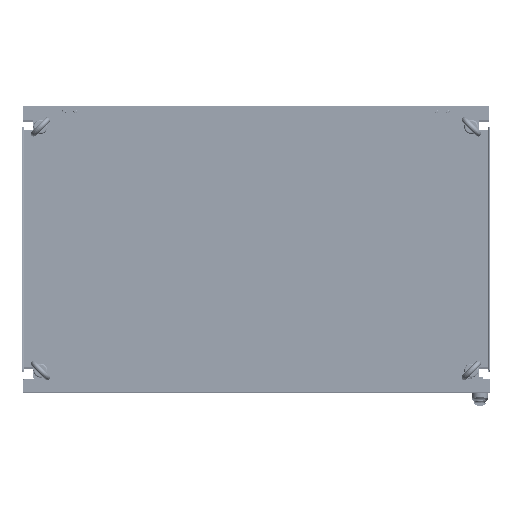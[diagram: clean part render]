
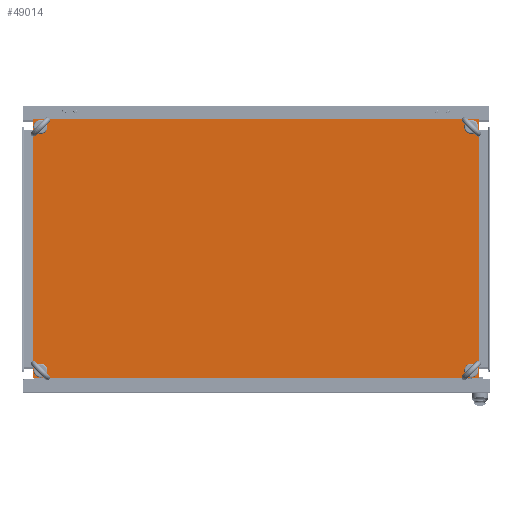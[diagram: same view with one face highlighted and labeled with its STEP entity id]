
A CAD part, top view. The second image highlights one B-rep face of the part: STEP entity #49014.
In plain terms, the highlighted planar face has unit normal (0, 0, 1).
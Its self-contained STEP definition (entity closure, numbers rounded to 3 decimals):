
#67=VERTEX_LOOP('',#34622);
#68=VERTEX_LOOP('',#34623);
#69=VERTEX_LOOP('',#34624);
#70=VERTEX_LOOP('',#34625);
#5702=LINE('',#78315,#10806);
#5703=LINE('',#78318,#10807);
#5704=LINE('',#78320,#10808);
#5705=LINE('',#78322,#10809);
#10806=VECTOR('',#64425,1000.);
#10807=VECTOR('',#64426,1000.);
#10808=VECTOR('',#64427,1000.);
#10809=VECTOR('',#64428,1000.);
#21367=ORIENTED_EDGE('',*,*,#29562,.F.);
#21368=ORIENTED_EDGE('',*,*,#29563,.F.);
#21369=ORIENTED_EDGE('',*,*,#29564,.F.);
#21370=ORIENTED_EDGE('',*,*,#29565,.F.);
#21371=ORIENTED_EDGE('',*,*,#29566,.F.);
#21372=ORIENTED_EDGE('',*,*,#29567,.F.);
#21373=ORIENTED_EDGE('',*,*,#29568,.F.);
#21374=ORIENTED_EDGE('',*,*,#29569,.F.);
#29562=EDGE_CURVE('',#34618,#34618,#36545,.T.);
#29563=EDGE_CURVE('',#34619,#34619,#36546,.T.);
#29564=EDGE_CURVE('',#34620,#34620,#36547,.T.);
#29565=EDGE_CURVE('',#34621,#34621,#36548,.T.);
#29566=EDGE_CURVE('',#34626,#34627,#5702,.T.);
#29567=EDGE_CURVE('',#34628,#34626,#5703,.T.);
#29568=EDGE_CURVE('',#34629,#34628,#5704,.T.);
#29569=EDGE_CURVE('',#34627,#34629,#5705,.T.);
#34618=VERTEX_POINT('',#78304);
#34619=VERTEX_POINT('',#78306);
#34620=VERTEX_POINT('',#78308);
#34621=VERTEX_POINT('',#78310);
#34622=VERTEX_POINT('',#78311);
#34623=VERTEX_POINT('',#78312);
#34624=VERTEX_POINT('',#78313);
#34625=VERTEX_POINT('',#78314);
#34626=VERTEX_POINT('',#78316);
#34627=VERTEX_POINT('',#78317);
#34628=VERTEX_POINT('',#78319);
#34629=VERTEX_POINT('',#78321);
#36545=CIRCLE('',#54034,6.5);
#36546=CIRCLE('',#54035,6.5);
#36547=CIRCLE('',#54036,6.5);
#36548=CIRCLE('',#54037,6.5);
#40090=EDGE_LOOP('',(#21367));
#40091=EDGE_LOOP('',(#21368));
#40092=EDGE_LOOP('',(#21369));
#40093=EDGE_LOOP('',(#21370));
#40094=EDGE_LOOP('',(#21371,#21372,#21373,#21374));
#44298=FACE_BOUND('',#40090,.T.);
#44299=FACE_BOUND('',#40091,.T.);
#44300=FACE_BOUND('',#40092,.T.);
#44301=FACE_BOUND('',#40093,.T.);
#44302=FACE_BOUND('',#67,.T.);
#44303=FACE_BOUND('',#68,.T.);
#44304=FACE_BOUND('',#69,.T.);
#44305=FACE_BOUND('',#70,.T.);
#44306=FACE_BOUND('',#40094,.T.);
#46868=PLANE('',#54033);
#49014=ADVANCED_FACE('',(#44298,#44299,#44300,#44301,#44302,#44303,#44304,
#44305,#44306),#46868,.F.);
#54033=AXIS2_PLACEMENT_3D('',#78302,#64415,#64416);
#54034=AXIS2_PLACEMENT_3D('',#78303,#64417,#64418);
#54035=AXIS2_PLACEMENT_3D('',#78305,#64419,#64420);
#54036=AXIS2_PLACEMENT_3D('',#78307,#64421,#64422);
#54037=AXIS2_PLACEMENT_3D('',#78309,#64423,#64424);
#64415=DIRECTION('',(0.,0.,-1.));
#64416=DIRECTION('',(-1.,0.,0.));
#64417=DIRECTION('',(0.,0.,1.));
#64418=DIRECTION('',(1.,0.,0.));
#64419=DIRECTION('',(0.,0.,1.));
#64420=DIRECTION('',(1.,0.,0.));
#64421=DIRECTION('',(0.,0.,1.));
#64422=DIRECTION('',(1.,0.,0.));
#64423=DIRECTION('',(0.,0.,1.));
#64424=DIRECTION('',(1.,0.,0.));
#64425=DIRECTION('',(0.,1.,0.));
#64426=DIRECTION('',(-1.,0.,0.));
#64427=DIRECTION('',(0.,-1.,0.));
#64428=DIRECTION('',(1.,0.,0.));
#78302=CARTESIAN_POINT('',(0.,0.,0.));
#78303=CARTESIAN_POINT('',(460.5,260.5,0.));
#78304=CARTESIAN_POINT('',(467.,260.5,0.));
#78305=CARTESIAN_POINT('',(-460.5,260.5,0.));
#78306=CARTESIAN_POINT('',(-454.,260.5,0.));
#78307=CARTESIAN_POINT('',(460.5,-260.5,0.));
#78308=CARTESIAN_POINT('',(467.,-260.5,0.));
#78309=CARTESIAN_POINT('',(-460.5,-260.5,0.));
#78310=CARTESIAN_POINT('',(-454.,-260.5,0.));
#78311=CARTESIAN_POINT('',(-474.2,-274.201,0.));
#78312=CARTESIAN_POINT('',(-474.201,274.201,0.));
#78313=CARTESIAN_POINT('',(474.2,274.201,0.));
#78314=CARTESIAN_POINT('',(474.201,-274.201,0.));
#78315=CARTESIAN_POINT('',(-477.,-277.,0.));
#78316=CARTESIAN_POINT('',(-477.,-277.,0.));
#78317=CARTESIAN_POINT('',(-477.,277.,0.));
#78318=CARTESIAN_POINT('',(477.,-277.,0.));
#78319=CARTESIAN_POINT('',(477.,-277.,0.));
#78320=CARTESIAN_POINT('',(477.,277.,0.));
#78321=CARTESIAN_POINT('',(477.,277.,0.));
#78322=CARTESIAN_POINT('',(-477.,277.,0.));
